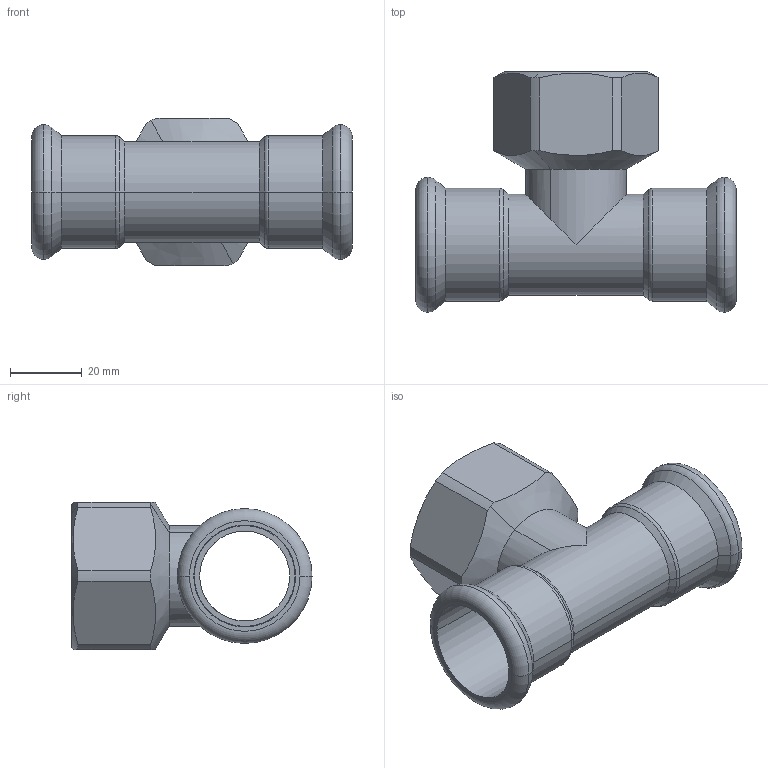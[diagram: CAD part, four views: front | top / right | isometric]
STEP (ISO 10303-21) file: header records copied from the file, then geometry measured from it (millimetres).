
FILE_DESCRIPTION(('CoCreate Modeling STEP Export'),'2;1');
FILE_NAME('C1418 28xRp1x28.stp','2014-11-12T13:37:54',(''),(''),'CoCreate Modeling STEP processor for AP214 (Solid Model)','CoCreate Modeling 17.00A 17-Jun-2010 (C) Parametric Technology GmbH','');
FILE_SCHEMA(('AUTOMOTIVE_DESIGN { 1 0 10303 214 1 1 1 1 }'));
Length unit declared in the file: millimetre
Products named in the file (2): C1418_28xRp1x28
Assembly tree (1 placements, depth 2):
  C1418_28xRp1x28
    C1418_28xRp1x28
Bounding box: 89 x 66.72 x 41 mm (x, y, z)
Volume: 31157.6 mm3; surface area: 25839.3 mm2
Topology: 1 solids, 1 shells, 66 faces, 161 edges, 101 vertices
Faces by surface type: cylinder 28, plane 14, torus 12, cone 12
Entity records: 3359 total; most frequent: CARTESIAN_POINT 1954, ORIENTED_EDGE 322, DIRECTION 242, EDGE_CURVE 161, VERTEX_POINT 101, AXIS2_PLACEMENT_3D 98, EDGE_LOOP 74, FACE_OUTER_BOUND 66
